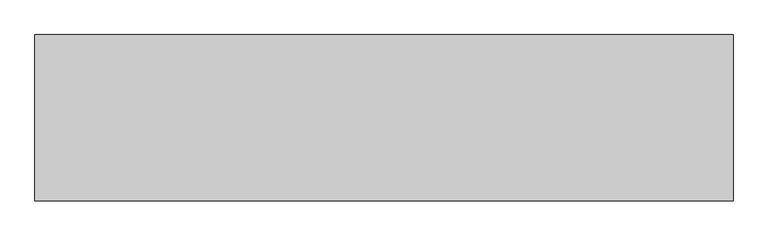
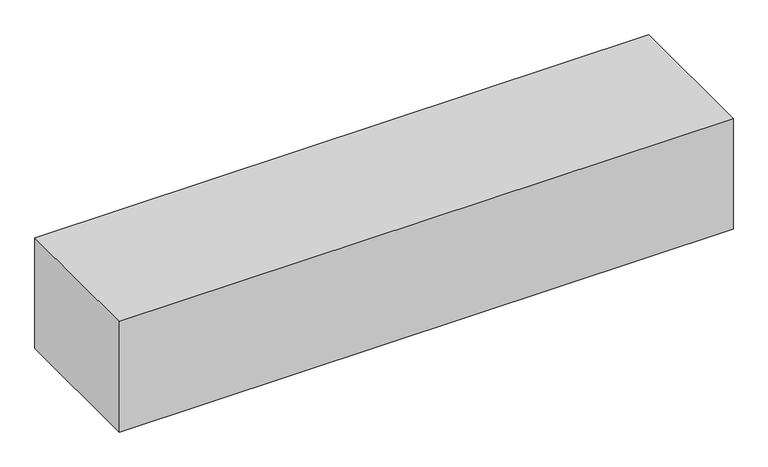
"""IFC4 building model written with IfcOpenShell, lengths in millimetres: geographic element geometry, r 低木密植 : 低木密植."""

import ifcopenshell
import ifcopenshell.guid

model = None  # the IFC model being written
_history = None  # IfcOwnerHistory: only IFC2X3 demands one
_inside = {}  # id of a spatial element -> (the spatial element, [elements in it])
_under = {}  # id of a project, library or spatial element -> (it, [spatial elements below it])
_declared = {}  # id of a project -> (the project, [libraries it declares])
_typed = {}  # id of a type object -> (the type object, [elements of that type])
_made_of = {}  # id of a material, layer set ... -> (it, [elements and type objects made of it])


def new_model(schema):
    """Start an empty IFC model of exactly this schema.

    Asked for "IFC4X3", IfcOpenShell would pick the latest addendum, in which some entities
    have other attributes; the version numbers below select the first issue.
    IFC2X3 requires an IfcOwnerHistory on every rooted entity: one is made here for all.
    """
    global model, _history
    if schema == "IFC4X3":
        model = ifcopenshell.file(schema_version=(4, 3, 0, 0))
    else:
        model = ifcopenshell.file(schema=schema)
    _inside.clear()
    _under.clear()
    _declared.clear()
    _typed.clear()
    _made_of.clear()
    _history = None
    if model.schema == "IFC2X3":
        org = make("IfcOrganization", Name="unknown")
        user = make(
            "IfcPersonAndOrganization",
            ThePerson=make("IfcPerson", FamilyName="unknown"),
            TheOrganization=org,
        )
        app = make(
            "IfcApplication",
            ApplicationDeveloper=org,
            Version="unknown",
            ApplicationFullName="unknown",
            ApplicationIdentifier="unknown",
        )
        _history = make(
            "IfcOwnerHistory",
            OwningUser=user,
            OwningApplication=app,
            ChangeAction="ADDED",
            CreationDate=0,
        )
    return model


def make(cls, **values):
    """One entity of the class cls with the attributes given. An attribute that is None is left unset."""
    return model.create_entity(
        cls, **{name: value for name, value in values.items() if value is not None}
    )


def rooted(cls, **values):
    """An entity with a GlobalId (a new one), such as an element, a storey or a relation."""
    return make(cls, GlobalId=ifcopenshell.guid.new(), OwnerHistory=_history, **values)


def si_unit(unit_type, name, prefix=None):
    """IfcSIUnit, for example si_unit("LENGTHUNIT", "METRE", prefix="MILLI")."""
    return make("IfcSIUnit", UnitType=unit_type, Prefix=prefix, Name=name)


def assignment(units):
    """IfcUnitAssignment: the units of a project."""
    return None if units is None else make("IfcUnitAssignment", Units=units)


def point(xyz):
    """IfcCartesianPoint."""
    return None if xyz is None else make("IfcCartesianPoint", Coordinates=xyz)


def direction(xyz):
    """IfcDirection."""
    return None if xyz is None else make("IfcDirection", DirectionRatios=xyz)


def frame(location, z_axis=None, x_axis=None):
    """IfcAxis2Placement3D, a coordinate frame: its origin and axes. An axis left out is left unset."""
    return make(
        "IfcAxis2Placement3D",
        Location=point(location),
        Axis=direction(z_axis),
        RefDirection=direction(x_axis),
    )


def origin():
    """The frame at (0, 0, 0) with its axes left unset."""
    return frame((0.0, 0.0, 0.0))


def origin_with_axes():
    """The frame at (0, 0, 0) with the z axis (0, 0, 1) and the x axis (1, 0, 0) written out."""
    return frame((0.0, 0.0, 0.0), z_axis=(0.0, 0.0, 1.0), x_axis=(1.0, 0.0, 0.0))


def place(relative_to, where):
    """IfcLocalPlacement: puts the frame where relative to a parent placement (None: the world)."""
    return make(
        "IfcLocalPlacement", PlacementRelTo=relative_to, RelativePlacement=where
    )


def context(
    kind, dimensions, precision=None, world=None, true_north=None, identifier=None
):
    """IfcGeometricRepresentationContext, for example the 3D "Model" context."""
    return make(
        "IfcGeometricRepresentationContext",
        ContextIdentifier=identifier,
        ContextType=kind,
        CoordinateSpaceDimension=dimensions,
        Precision=precision,
        WorldCoordinateSystem=world,
        TrueNorth=true_north,
    )


def project(units=None, contexts=None):
    """IfcProject with its units and contexts."""
    return rooted(
        "IfcProject",
        Name="project",
        RepresentationContexts=contexts,
        UnitsInContext=assignment(units),
    )


def spatial(cls, under=None, at=None, **own):
    """A site, building, storey or space (cls), placed at a placement, below another one or the project."""
    s = rooted(cls, ObjectPlacement=at, **own)
    if under is not None:
        _under.setdefault(under.id(), (under, []))[1].append(s)
    return s


def polyline(points):
    """IfcPolyline through the points."""
    return make("IfcPolyline", Points=[point(p) for p in points])


def outline(outer, holes=None, kind="AREA"):
    """IfcArbitraryClosedProfileDef: a profile drawn as a closed curve; with holes, ...WithVoids."""
    if holes is None:
        return make("IfcArbitraryClosedProfileDef", ProfileType=kind, OuterCurve=outer)
    return make(
        "IfcArbitraryProfileDefWithVoids",
        ProfileType=kind,
        OuterCurve=outer,
        InnerCurves=holes,
    )


def extrude(swept, where, along, depth):
    """IfcExtrudedAreaSolid: the profile swept, set in the frame where, extruded along a direction by depth."""
    return make(
        "IfcExtrudedAreaSolid",
        SweptArea=swept,
        Position=where,
        ExtrudedDirection=direction(along),
        Depth=depth,
    )


def shape(context_of_items, identifier, shape_type, items):
    """IfcShapeRepresentation: the items that make up one representation, for example the "Body"."""
    return make(
        "IfcShapeRepresentation",
        ContextOfItems=context_of_items,
        RepresentationIdentifier=identifier,
        RepresentationType=shape_type,
        Items=items,
    )


def source(mapping_origin, context_of_items, identifier, shape_type, items):
    """IfcRepresentationMap: a shape defined once, which mapped items show again and again."""
    return make(
        "IfcRepresentationMap",
        MappingOrigin=mapping_origin,
        MappedRepresentation=shape(context_of_items, identifier, shape_type, items),
    )


def transform(
    local_origin,
    x_axis=None,
    y_axis=None,
    z_axis=None,
    scale=None,
    scale2=None,
    scale3=None,
    uniform=True,
):
    """IfcCartesianTransformationOperator3D, or its non-uniform kind. x_axis, y_axis, z_axis: its Axis1, 2, 3."""
    if uniform:
        return make(
            "IfcCartesianTransformationOperator3D",
            Axis1=direction(x_axis),
            Axis2=direction(y_axis),
            LocalOrigin=point(local_origin),
            Scale=scale,
            Axis3=direction(z_axis),
        )
    return make(
        "IfcCartesianTransformationOperator3DnonUniform",
        Axis1=direction(x_axis),
        Axis2=direction(y_axis),
        LocalOrigin=point(local_origin),
        Scale=scale,
        Axis3=direction(z_axis),
        Scale2=scale2,
        Scale3=scale3,
    )


def mapped(mapping_source, mapping_target):
    """IfcMappedItem: shows the shape of a source again, moved by a transform."""
    return make(
        "IfcMappedItem", MappingSource=mapping_source, MappingTarget=mapping_target
    )


def made_of(thing, what):
    """Note that an element or type object is made of a material, layer set ...; save() writes the relation."""
    if what is not None:
        _made_of.setdefault(what.id(), (what, []))[1].append(thing)
    return thing


def element(
    cls,
    number,
    at=None,
    inside=None,
    cuts=None,
    type_object=None,
    material=None,
    context=None,
    identifier="Body",
    shape_type=None,
    held_by="IfcProductDefinitionShape",
    body=None,
    shapes=None,
    **own,
):
    """One element of the class cls, such as IfcWall. Its Tag is "e" and its number.

    at: its placement. inside: the storey or other place that contains it. cuts: it is an
    opening in that element (IfcRelVoidsElement). A single representation is given by context,
    identifier, shape_type and body (its items); several are given by shapes. held_by: the class
    of the entity that holds the representations. save() writes the other relations.
    """
    e = rooted(cls, Tag="e%d" % number, ObjectPlacement=at, **own)
    if body is not None:
        shapes = [shape(context, identifier, shape_type, body)]
    if shapes is not None:
        e.Representation = make(held_by, Representations=shapes)
    if inside is not None:
        _inside.setdefault(inside.id(), (inside, []))[1].append(e)
    if cuts is not None:
        rooted(
            "IfcRelVoidsElement", RelatingBuildingElement=cuts, RelatedOpeningElement=e
        )
    if type_object is not None:
        _typed.setdefault(type_object.id(), (type_object, []))[1].append(e)
    return made_of(e, material)


def aggregate(whole, parts):
    """IfcRelAggregates: a whole, such as a stair, and the parts it consists of."""
    return rooted("IfcRelAggregates", RelatingObject=whole, RelatedObjects=parts)


def save(model, path):
    """Write the relations noted so far, then the file.

    IfcRelAggregates (storeys below a building ...), IfcRelContainedInSpatialStructure (elements
    in a storey), IfcRelDefinesByType, IfcRelAssociatesMaterial and IfcRelDeclares: one each for
    every whole, place, type object, material and project.
    """
    for whole, parts in _under.values():
        aggregate(whole, parts)
    for where, things in _inside.values():
        rooted(
            "IfcRelContainedInSpatialStructure",
            RelatedElements=things,
            RelatingStructure=where,
        )
    for kind, things in _typed.values():
        rooted("IfcRelDefinesByType", RelatedObjects=things, RelatingType=kind)
    for what, things in _made_of.values():
        rooted("IfcRelAssociatesMaterial", RelatedObjects=things, RelatingMaterial=what)
    for by, libraries in _declared.values():
        rooted("IfcRelDeclares", RelatingContext=by, RelatedDefinitions=libraries)
    model.write(path)


def geographic_element_e046077a(model_context):
    return source(origin(), model_context, "Body", "SweptSolid", [
        extrude(outline(polyline([(0.0, 0.0), (0.0, 500.0), (2100.0, 500.0), (2100.0, 0.0), (0.0, 0.0)])), origin_with_axes(), (0.0, 0.0, 1.0), 400.0),
    ])


if __name__ == "__main__":
    model = new_model("IFC4")
    model_context = context("Model", 3, world=origin())
    ifc_project = project(units=[si_unit("LENGTHUNIT", "METRE", prefix="MILLI")], contexts=[model_context])
    site = spatial("IfcSite", under=ifc_project)
    building = spatial("IfcBuilding", under=site)
    placement = place(None, origin())
    geographic_element_shape = geographic_element_e046077a(model_context)
    element("IfcGeographicElement", 1, ObjectType="r 低木密植 : 低木密植", at=placement, inside=building, context=model_context, shape_type="MappedRepresentation", body=[
        mapped(geographic_element_shape, transform((0.0, 0.0, 0.0), x_axis=(1.0, 0.0, 0.0), y_axis=(0.0, 1.0, 0.0), z_axis=(0.0, 0.0, 1.0))),
    ])
    save(model, "model.ifc")
